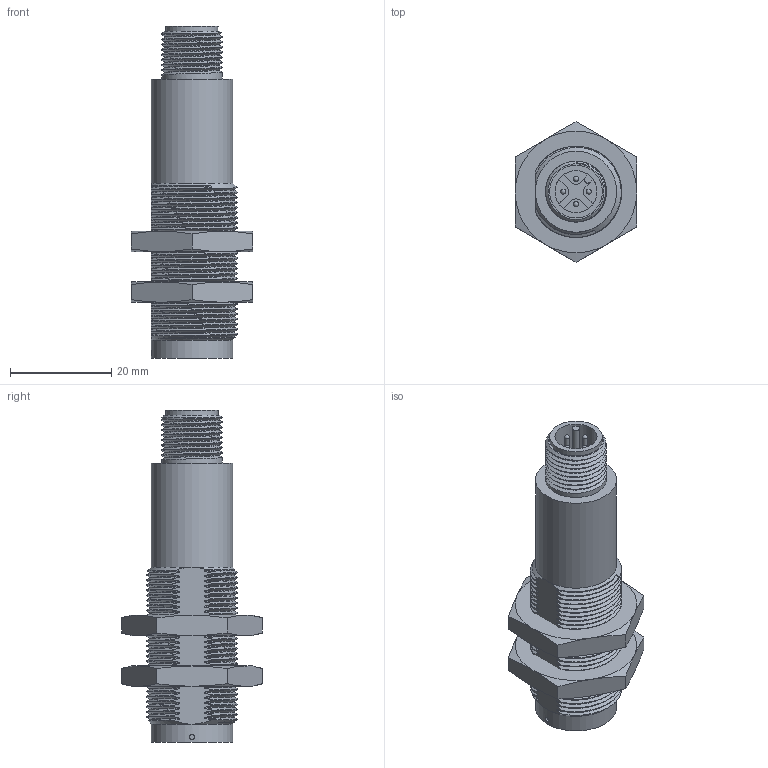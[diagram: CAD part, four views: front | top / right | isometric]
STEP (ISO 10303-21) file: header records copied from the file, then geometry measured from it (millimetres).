
FILE_DESCRIPTION(/* description */ ('Katalogmodell Elobau'),/* implementation_level */ '2;1');
FILE_NAME(/* name */ 'Katalogdaten.stp',/* time_stamp */ '2014-09-10T14:27:56+02:00',/* author */ ('Elobau GmbH & Co. KG'),/* organization */ ('Elobau GmbH & Co. KG'),/* preprocessor_version */ 'ST-DEVELOPER v15',/* originating_system */ 'SIEMENS PLM Software NX 8.5',/* authorisation */ '');
FILE_SCHEMA (('AUTOMOTIVE_DESIGN { 1 0 10303 214 3 1 1 1 }'));
Products named in the file (1): 120272VY01_D
Bounding box: 24 x 27.71 x 65.5 mm (x, y, z)
Volume: 3962.8 mm3; surface area: 7812.5 mm2
Topology: 2 solids, 3 shells, 214 faces, 602 edges, 393 vertices
Faces by surface type: cylinder 78, bspline 64, plane 41, cone 27, sphere 4
Full cylindrical faces by diameter (mm): 1 x5, 8.3 x1, 10.4 x1, 12 x1, 16 x2
Entity records: 148938 total; most frequent: CARTESIAN_POINT 144476, ORIENTED_EDGE 1106, DIRECTION 605, EDGE_CURVE 553, VERTEX_POINT 365, B_SPLINE_CURVE_WITH_KNOTS 264, EDGE_LOOP 232, AXIS2_PLACEMENT_3D 214
